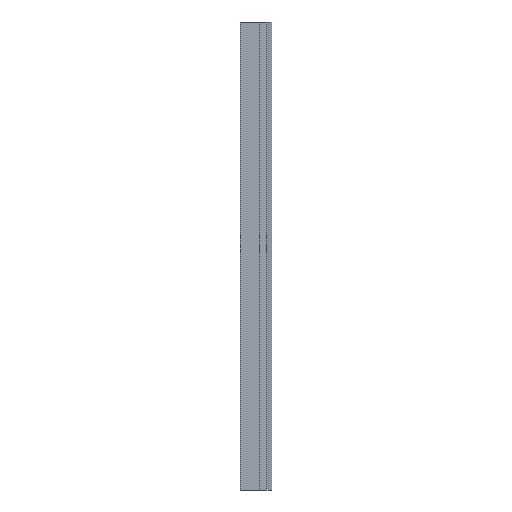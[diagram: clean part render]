
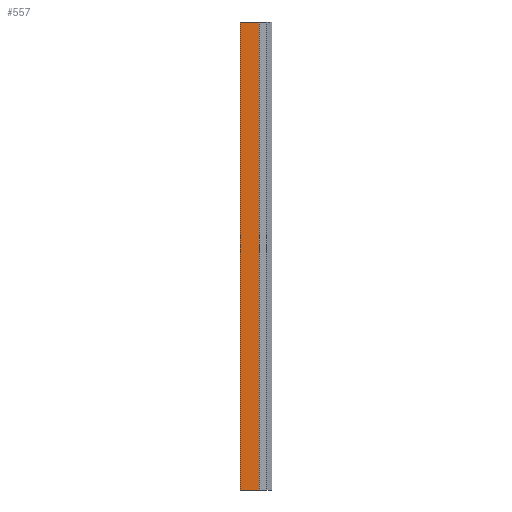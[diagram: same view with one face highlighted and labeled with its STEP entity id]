
A CAD part, left-side view. The second image highlights one B-rep face of the part: STEP entity #557.
In plain terms, the highlighted planar face has unit normal (-1, 0, 0).
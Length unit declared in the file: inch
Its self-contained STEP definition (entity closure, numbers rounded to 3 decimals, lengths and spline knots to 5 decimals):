
#3 = AXIS2_PLACEMENT_3D ( 'NONE', #645, #58, #448 ) ;
#18 = DIRECTION ( 'NONE',  ( 0., -1., 0. ) ) ;
#40 = VERTEX_POINT ( 'NONE', #636 ) ;
#58 = DIRECTION ( 'NONE',  ( 1., 0., 0. ) ) ;
#74 = DIRECTION ( 'NONE',  ( 0., 0., -1. ) ) ;
#81 = CARTESIAN_POINT ( 'NONE',  ( 0., 4.89773, 0. ) ) ;
#86 = VECTOR ( 'NONE', #74, 39.37008 ) ;
#152 = VECTOR ( 'NONE', #467, 39.37008 ) ;
#158 = VERTEX_POINT ( 'NONE', #226 ) ;
#172 = CARTESIAN_POINT ( 'NONE',  ( 0., 0.02273, 0. ) ) ;
#226 = CARTESIAN_POINT ( 'NONE',  ( 0., 4.89773, 120. ) ) ;
#229 = EDGE_CURVE ( 'NONE', #158, #815, #300, .T. ) ;
#265 = ORIENTED_EDGE ( 'NONE', *, *, #703, .F. ) ;
#300 = LINE ( 'NONE', #840, #152 ) ;
#316 = VERTEX_POINT ( 'NONE', #172 ) ;
#328 = ORIENTED_EDGE ( 'NONE', *, *, #229, .T. ) ;
#352 = EDGE_CURVE ( 'NONE', #815, #316, #535, .T. ) ;
#369 = ORIENTED_EDGE ( 'NONE', *, *, #612, .F. ) ;
#447 = CARTESIAN_POINT ( 'NONE',  ( 0., 0.02273, 0. ) ) ;
#448 = DIRECTION ( 'NONE',  ( 0., 0., -1. ) ) ;
#459 = DIRECTION ( 'NONE',  ( 0., -1., 0. ) ) ;
#467 = DIRECTION ( 'NONE',  ( 0., 0., -1. ) ) ;
#517 = VECTOR ( 'NONE', #18, 39.37008 ) ;
#535 = LINE ( 'NONE', #447, #616 ) ;
#557 = ADVANCED_FACE ( 'NONE', ( #694 ), #590, .F. ) ;
#590 = PLANE ( 'NONE',  #3 ) ;
#612 = EDGE_CURVE ( 'NONE', #40, #316, #773, .T. ) ;
#616 = VECTOR ( 'NONE', #459, 39.37008 ) ;
#636 = CARTESIAN_POINT ( 'NONE',  ( 0., 0.02273, 120. ) ) ;
#645 = CARTESIAN_POINT ( 'NONE',  ( 0., 0.02273, 120. ) ) ;
#669 = ORIENTED_EDGE ( 'NONE', *, *, #352, .T. ) ;
#694 = FACE_OUTER_BOUND ( 'NONE', #770, .T. ) ;
#703 = EDGE_CURVE ( 'NONE', #158, #40, #733, .T. ) ;
#733 = LINE ( 'NONE', #761, #517 ) ;
#761 = CARTESIAN_POINT ( 'NONE',  ( 0., 0.02273, 120. ) ) ;
#770 = EDGE_LOOP ( 'NONE', ( #669, #369, #265, #328 ) ) ;
#773 = LINE ( 'NONE', #805, #86 ) ;
#805 = CARTESIAN_POINT ( 'NONE',  ( 0., 0.02273, 120. ) ) ;
#815 = VERTEX_POINT ( 'NONE', #81 ) ;
#840 = CARTESIAN_POINT ( 'NONE',  ( 0., 4.89773, 120. ) ) ;
